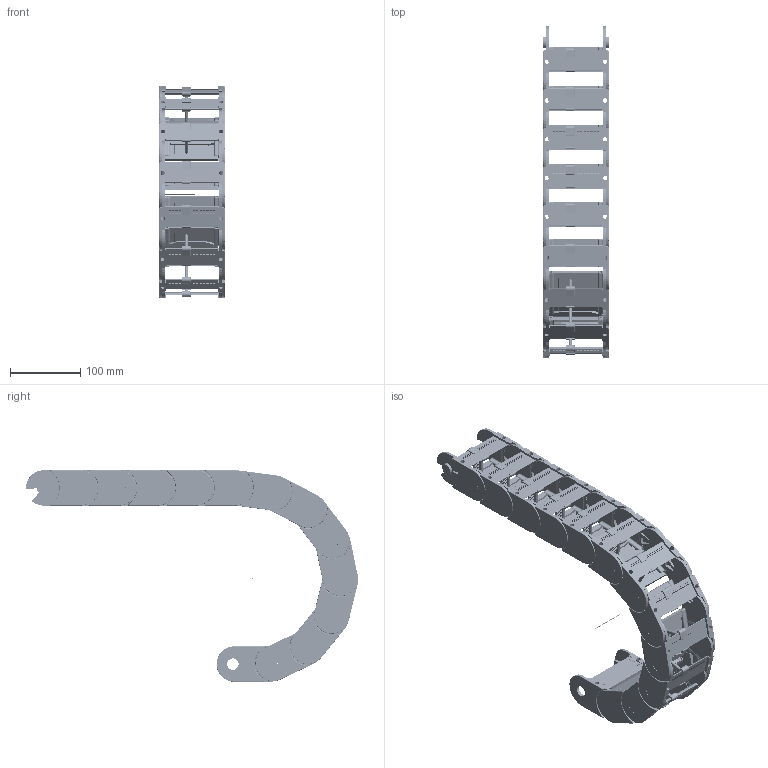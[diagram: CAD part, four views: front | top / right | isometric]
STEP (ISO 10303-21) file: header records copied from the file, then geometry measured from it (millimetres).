
FILE_DESCRIPTION((''),'2;1');
FILE_NAME('C:\Uebbing\PARAMETERKETTEN\KOLIBRI\Kol_50_095_2\KOLIBRI 50_095_2_R125.stp','2012-03-05T09:46:13',('Uebbing'),(''),'Autodesk Inventor 10','Autodesk Inventor 10','');
FILE_SCHEMA(('AUTOMOTIVE_DESIGN { 1 0 10303 214 1 1 1 1 }'));
Length unit declared in the file: millimetre
Products named in the file (6): KOLIBRI 50_095_2_PARAMETRISCH; Achse; Kol_50_095_2; Kol_50_095_2_Lasche; Kol_50_95_0_Klappsteg; Kol_50_095_2 PZ 
Assembly tree (17 placements, depth 3):
  KOLIBRI 50_095_2_PARAMETRISCH
    Achse
    Kol_50_095_2  x13
      Kol_50_095_2_Lasche
      Kol_50_95_0_Klappsteg
      Kol_50_095_2 PZ 
Bounding box: 92.88 x 470.96 x 300.25 mm (x, y, z)
Volume: 766597.1 mm3; surface area: 517425.3 mm2
Topology: 40 solids, 40 shells, 11274 faces, 29709 edges, 19373 vertices
Faces by surface type: plane 6047, cylinder 2484, bspline 2405, torus 260, sphere 52, cone 26
Full cylindrical faces by diameter (mm): 1 x1, 2.021 x13, 3.549 x13, 4 x13, 4.036 x13, 4.221 x26, 6.231 x13, 16.08 x13, 16.18 x13
Entity records: 31694 total; most frequent: CARTESIAN_POINT 10424, ORIENTED_EDGE 4498, DIRECTION 4145, EDGE_CURVE 2249, VECTOR 1599, LINE 1599, VERTEX_POINT 1478, AXIS2_PLACEMENT_3D 1273
